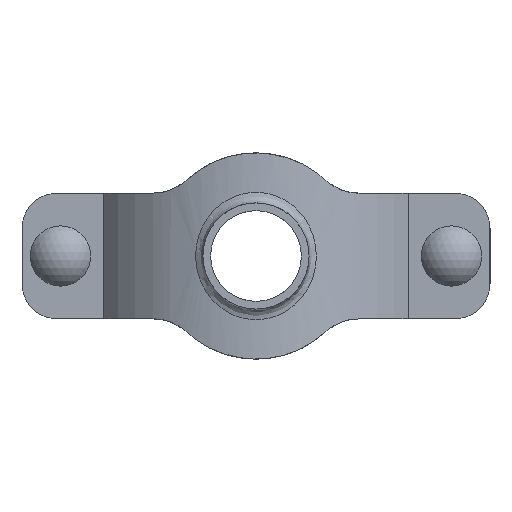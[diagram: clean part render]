
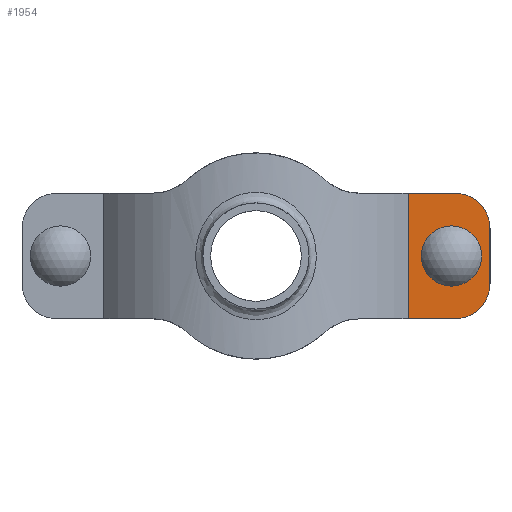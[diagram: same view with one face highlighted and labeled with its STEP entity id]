
A CAD part, front view. The second image highlights one B-rep face of the part: STEP entity #1954.
In plain terms, the highlighted planar face has unit normal (0, -1, 0) as drawn and (0, 1, 0) by its records, which use the part's own axes.
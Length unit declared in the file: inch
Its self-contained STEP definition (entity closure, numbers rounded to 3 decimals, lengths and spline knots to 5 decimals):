
#127=FACE_BOUND('',#347,.T.);
#220=FACE_OUTER_BOUND('',#346,.T.);
#346=EDGE_LOOP('',(#1635,#1636,#1637,#1638,#1639,#1640));
#347=EDGE_LOOP('',(#1641,#1642,#1643,#1644));
#457=LINE('',#3660,#603);
#468=LINE('',#3738,#614);
#472=LINE('',#3749,#618);
#494=LINE('',#3974,#640);
#495=LINE('',#3976,#641);
#496=LINE('',#3980,#642);
#603=VECTOR('',#2573,0.3937);
#614=VECTOR('',#2610,0.3937);
#618=VECTOR('',#2622,0.3937);
#640=VECTOR('',#2704,0.3937);
#641=VECTOR('',#2705,0.3937);
#642=VECTOR('',#2708,0.3937);
#716=CIRCLE('',#2166,0.343);
#718=CIRCLE('',#2170,0.343);
#735=CIRCLE('',#2203,0.63);
#736=CIRCLE('',#2204,0.63);
#860=VERTEX_POINT('',#3657);
#861=VERTEX_POINT('',#3659);
#873=VERTEX_POINT('',#3728);
#874=VERTEX_POINT('',#3729);
#877=VERTEX_POINT('',#3737);
#879=VERTEX_POINT('',#3743);
#911=VERTEX_POINT('',#3973);
#912=VERTEX_POINT('',#3975);
#913=VERTEX_POINT('',#3977);
#914=VERTEX_POINT('',#3979);
#1091=EDGE_CURVE('',#861,#860,#457,.T.);
#1108=EDGE_CURVE('',#873,#874,#716,.T.);
#1112=EDGE_CURVE('',#874,#877,#468,.T.);
#1115=EDGE_CURVE('',#877,#879,#718,.T.);
#1118=EDGE_CURVE('',#879,#873,#472,.T.);
#1162=EDGE_CURVE('',#861,#911,#494,.T.);
#1163=EDGE_CURVE('',#912,#860,#495,.T.);
#1164=EDGE_CURVE('',#913,#912,#735,.T.);
#1165=EDGE_CURVE('',#914,#913,#496,.T.);
#1166=EDGE_CURVE('',#911,#914,#736,.T.);
#1635=ORIENTED_EDGE('',*,*,#1162,.F.);
#1636=ORIENTED_EDGE('',*,*,#1091,.T.);
#1637=ORIENTED_EDGE('',*,*,#1163,.F.);
#1638=ORIENTED_EDGE('',*,*,#1164,.F.);
#1639=ORIENTED_EDGE('',*,*,#1165,.F.);
#1640=ORIENTED_EDGE('',*,*,#1166,.F.);
#1641=ORIENTED_EDGE('',*,*,#1115,.T.);
#1642=ORIENTED_EDGE('',*,*,#1118,.T.);
#1643=ORIENTED_EDGE('',*,*,#1108,.T.);
#1644=ORIENTED_EDGE('',*,*,#1112,.T.);
#1751=PLANE('',#2202);
#1954=ADVANCED_FACE('',(#220,#127),#1751,.F.);
#2166=AXIS2_PLACEMENT_3D('',#3730,#2602,#2603);
#2170=AXIS2_PLACEMENT_3D('',#3744,#2615,#2616);
#2202=AXIS2_PLACEMENT_3D('',#3972,#2702,#2703);
#2203=AXIS2_PLACEMENT_3D('',#3978,#2706,#2707);
#2204=AXIS2_PLACEMENT_3D('',#3981,#2709,#2710);
#2573=DIRECTION('',(0.,0.,-1.));
#2602=DIRECTION('center_axis',(0.,-1.,0.));
#2603=DIRECTION('ref_axis',(-1.,0.,0.));
#2610=DIRECTION('',(0.,0.,-1.));
#2615=DIRECTION('center_axis',(0.,-1.,0.));
#2616=DIRECTION('ref_axis',(1.,0.,0.));
#2622=DIRECTION('',(0.,0.,1.));
#2702=DIRECTION('center_axis',(0.,-1.,0.));
#2703=DIRECTION('ref_axis',(1.,0.,0.));
#2704=DIRECTION('',(-1.,0.,0.));
#2705=DIRECTION('',(1.,0.,0.));
#2706=DIRECTION('center_axis',(0.,-1.,0.));
#2707=DIRECTION('ref_axis',(0.,0.,-1.));
#2708=DIRECTION('',(0.,0.,-1.));
#2709=DIRECTION('center_axis',(0.,-1.,0.));
#2710=DIRECTION('ref_axis',(-1.,0.,0.));
#3657=CARTESIAN_POINT('',(-2.72478,2.,-1.125));
#3659=CARTESIAN_POINT('',(-2.72478,2.,1.125));
#3660=CARTESIAN_POINT('',(-2.72478,2.,0.));
#3728=CARTESIAN_POINT('',(-3.157,2.,0.0945));
#3729=CARTESIAN_POINT('',(-3.843,2.,0.0945));
#3730=CARTESIAN_POINT('Origin',(-3.5,2.,0.0945));
#3737=CARTESIAN_POINT('',(-3.843,2.,-0.0945));
#3738=CARTESIAN_POINT('',(-3.843,2.,-0.04725));
#3743=CARTESIAN_POINT('',(-3.157,2.,-0.0945));
#3744=CARTESIAN_POINT('Origin',(-3.5,2.,-0.0945));
#3749=CARTESIAN_POINT('',(-3.157,2.,0.04725));
#3972=CARTESIAN_POINT('Origin',(-4.19,2.,0.));
#3973=CARTESIAN_POINT('',(-3.56,2.,1.125));
#3974=CARTESIAN_POINT('',(-3.875,2.,1.125));
#3975=CARTESIAN_POINT('',(-3.56,2.,-1.125));
#3976=CARTESIAN_POINT('',(-3.01771,2.,-1.125));
#3977=CARTESIAN_POINT('',(-4.19,2.,-0.495));
#3978=CARTESIAN_POINT('Origin',(-3.56,2.,-0.495));
#3979=CARTESIAN_POINT('',(-4.19,2.,0.495));
#3980=CARTESIAN_POINT('',(-4.19,2.,-0.2475));
#3981=CARTESIAN_POINT('Origin',(-3.56,2.,0.495));
